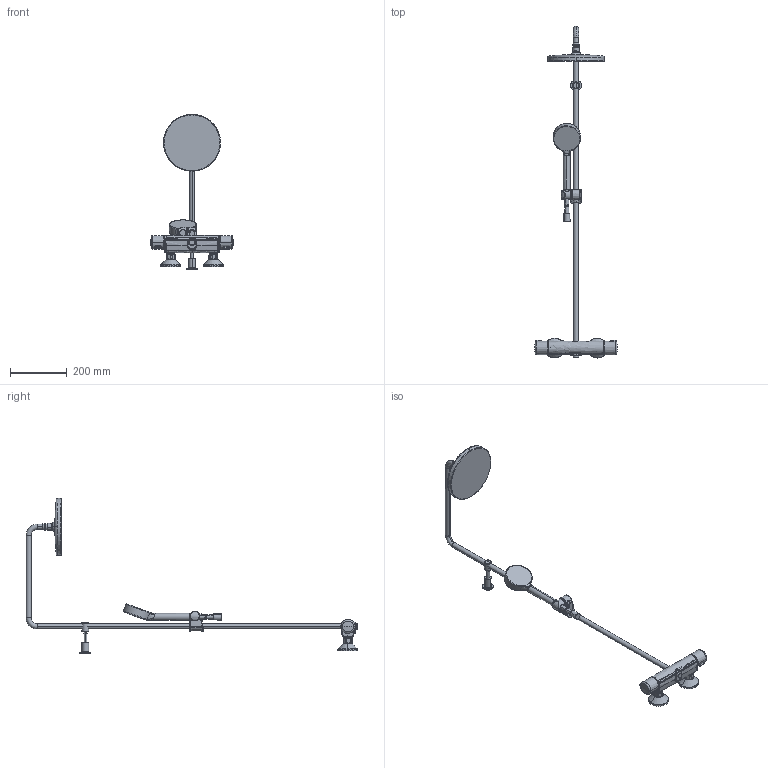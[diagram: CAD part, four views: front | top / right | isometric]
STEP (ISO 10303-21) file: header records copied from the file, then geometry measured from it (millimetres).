
FILE_DESCRIPTION (( 'STEP AP203' ), '1' );
FILE_NAME ('7402C-33(2022).STEP', '2022-09-05T12:03:34', ( '' ), ( '' ), 'SwSTEP 2.0', 'SolidWorks 2016', '' );
FILE_SCHEMA (( 'CONFIG_CONTROL_DESIGN' ));
Products named in the file (1): 7402C-33(2022)
Bounding box: 289.92 x 1165.16 x 545.7 mm (x, y, z)
Volume: 1835152.9 mm3; surface area: 377600.9 mm2
Topology: 23 solids, 23 shells, 850 faces, 1982 edges, 1183 vertices
Faces by surface type: bspline 321, cylinder 202, plane 116, torus 96, cone 77, sphere 38
Entity records: 62029 total; most frequent: CARTESIAN_POINT 45473, ORIENTED_EDGE 3928, DIRECTION 2760, EDGE_CURVE 1964, AXIS2_PLACEMENT_3D 1222, VERTEX_POINT 1181, EDGE_LOOP 873, ADVANCED_FACE 850
